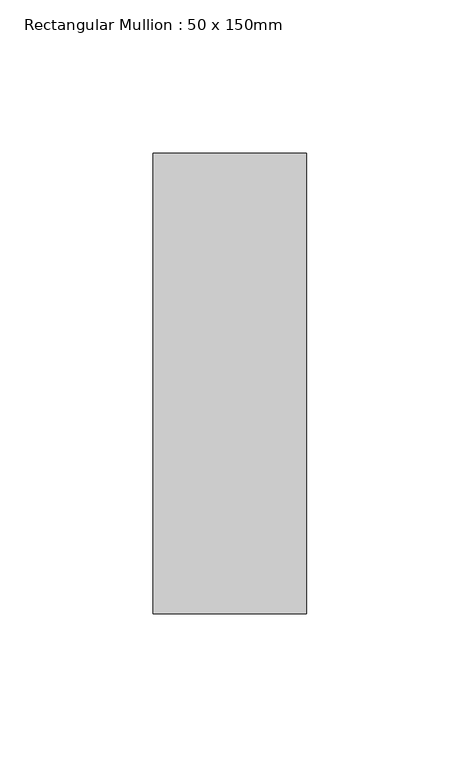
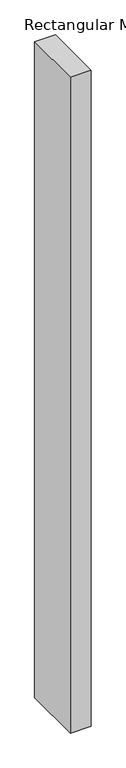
"""IFC4 building model written with IfcOpenShell, lengths in millimetres: member geometry, Rectangular Mullion : 50 x 150mm."""

from ifc_helpers import new_model, si_unit, frame, origin, place, context, project, spatial, polyline, outline, extrude, source, transform, mapped, element, save


def rectangular_mullion_50_x_150mm_af42b6a0(model_context):
    return source(origin(), model_context, "Body", "SweptSolid", [
        extrude(outline(polyline([(0.0, 0.0), (-0.1043071, -50.0), (-1681.7442015, -50.0), (-1681.9281051, 0.0), (0.0, 0.0)])), frame((0.0, -75.0, 0.0), z_axis=(0.0, 1.0, 0.0), x_axis=(0.0, 0.0, 1.0)), (0.0, 0.0, 1.0), 150.0),
    ])


if __name__ == "__main__":
    model = new_model("IFC4")
    model_context = context("Model", 3, world=origin())
    ifc_project = project(units=[si_unit("LENGTHUNIT", "METRE", prefix="MILLI")], contexts=[model_context])
    site = spatial("IfcSite", under=ifc_project)
    building = spatial("IfcBuilding", under=site)
    placement = place(None, origin())
    rectangular_mullion_50_x_150mm_shape = rectangular_mullion_50_x_150mm_af42b6a0(model_context)
    element("IfcMember", 1, ObjectType="Rectangular Mullion : 50 x 150mm", at=placement, inside=building, context=model_context, shape_type="MappedRepresentation", body=[
        mapped(rectangular_mullion_50_x_150mm_shape, transform((0.0, 0.0, 0.0), x_axis=(1.0, 0.0, 0.0), y_axis=(0.0, 1.0, 0.0), z_axis=(0.0, 0.0, 1.0))),
    ])
    save(model, "model.ifc")
